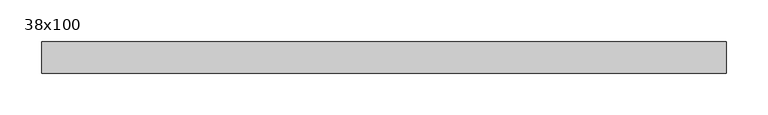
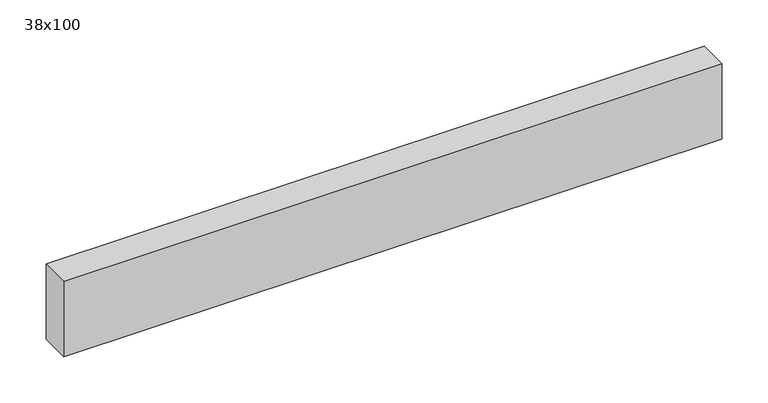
"""IFC4 building model written with IfcOpenShell, lengths in millimetres: beam geometry, Poutre - Bois de construction de dimensions courantes : 38x100."""

from ifc_helpers import new_model, si_unit, frame, origin, place, context, project, spatial, polyline, outline, extrude, source, transform, mapped, element, save


def beam_38x100_e99a1889(model_context):
    return source(origin(), model_context, "Body", "SweptSolid", [
        extrude(outline(polyline([(407.5, 19.05), (407.5, -19.05), (-416.5, -19.05), (-416.5, 19.05), (407.5, 19.05)])), frame((0.0, 0.0, -50.0), z_axis=(0.0, 0.0, 1.0), x_axis=(1.0, 0.0, 0.0)), (0.0, 0.0, 1.0), 100.0),
    ])


if __name__ == "__main__":
    model = new_model("IFC4")
    model_context = context("Model", 3, world=origin())
    ifc_project = project(units=[si_unit("LENGTHUNIT", "METRE", prefix="MILLI")], contexts=[model_context])
    site = spatial("IfcSite", under=ifc_project)
    building = spatial("IfcBuilding", under=site)
    placement = place(None, origin())
    beam_38x100_shape = beam_38x100_e99a1889(model_context)
    element("IfcBeam", 1, ObjectType="Poutre - Bois de construction de dimensions courantes : 38x100", at=placement, inside=building, context=model_context, shape_type="MappedRepresentation", body=[
        mapped(beam_38x100_shape, transform((0.0, 0.0, 0.0), x_axis=(1.0, 0.0, 0.0), y_axis=(0.0, 1.0, 0.0), z_axis=(0.0, 0.0, 1.0))),
    ])
    save(model, "model.ifc")
